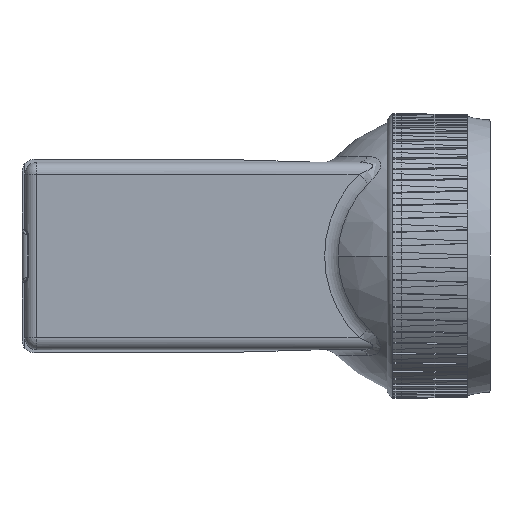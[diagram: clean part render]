
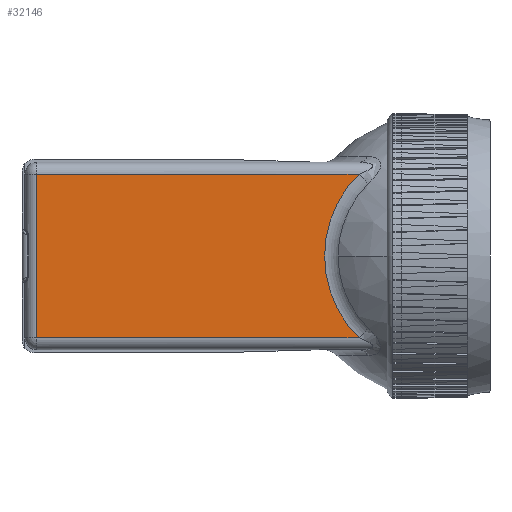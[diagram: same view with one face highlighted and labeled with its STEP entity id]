
A CAD part, front view. The second image highlights one B-rep face of the part: STEP entity #32146.
In plain terms, the highlighted planar face has unit normal (0, -1, 0).
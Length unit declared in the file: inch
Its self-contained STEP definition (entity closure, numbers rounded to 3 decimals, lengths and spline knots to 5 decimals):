
#1285 = CARTESIAN_POINT ( 'NONE',  ( 5.70515, -1.6, -1.4 ) ) ;
#3133 = VERTEX_POINT ( 'NONE', #34626 ) ;
#4519 = EDGE_LOOP ( 'NONE', ( #34957, #18372, #26862, #16624 ) ) ;
#5855 = CIRCLE ( 'NONE', #37379, 1.9622 ) ;
#5985 = CARTESIAN_POINT ( 'NONE',  ( 6.15, -1.6, -1.4 ) ) ;
#6199 = EDGE_CURVE ( 'NONE', #10807, #6694, #19349, .T. ) ;
#6331 = EDGE_CURVE ( 'NONE', #3133, #19429, #38477, .T. ) ;
#6694 = VERTEX_POINT ( 'NONE', #16736 ) ;
#9643 = LINE ( 'NONE', #15255, #18502 ) ;
#10807 = VERTEX_POINT ( 'NONE', #34066 ) ;
#11314 = DIRECTION ( 'NONE',  ( -1., 0., 0. ) ) ;
#11854 = DIRECTION ( 'NONE',  ( 0., 1., 0. ) ) ;
#15255 = CARTESIAN_POINT ( 'NONE',  ( 0.2, -1.6, -1.6 ) ) ;
#15750 = DIRECTION ( 'NONE',  ( 0., 0., 1. ) ) ;
#16624 = ORIENTED_EDGE ( 'NONE', *, *, #24875, .T. ) ;
#16736 = CARTESIAN_POINT ( 'NONE',  ( 0.2, -1.6, 1.4 ) ) ;
#17534 = FACE_OUTER_BOUND ( 'NONE', #4519, .T. ) ;
#18372 = ORIENTED_EDGE ( 'NONE', *, *, #27027, .T. ) ;
#18502 = VECTOR ( 'NONE', #21121, 39.37008 ) ;
#19349 = LINE ( 'NONE', #19888, #26299 ) ;
#19429 = VERTEX_POINT ( 'NONE', #1285 ) ;
#19888 = CARTESIAN_POINT ( 'NONE',  ( 6.15, -1.6, 1.4 ) ) ;
#20787 = DIRECTION ( 'NONE',  ( 1., 0., 0. ) ) ;
#21121 = DIRECTION ( 'NONE',  ( 0., 0., -1. ) ) ;
#24875 = EDGE_CURVE ( 'NONE', #6694, #3133, #9643, .T. ) ;
#26299 = VECTOR ( 'NONE', #11314, 39.37008 ) ;
#26862 = ORIENTED_EDGE ( 'NONE', *, *, #6199, .T. ) ;
#27027 = EDGE_CURVE ( 'NONE', #19429, #10807, #5855, .T. ) ;
#27584 = CARTESIAN_POINT ( 'NONE',  ( 6.15, -1.6, 1.6 ) ) ;
#29678 = CARTESIAN_POINT ( 'NONE',  ( 7.08, -1.6, 0. ) ) ;
#30605 = PLANE ( 'NONE',  #35387 ) ;
#32146 = ADVANCED_FACE ( 'NONE', ( #17534 ), #30605, .F. ) ;
#32701 = DIRECTION ( 'NONE',  ( 0., 0., 1. ) ) ;
#33604 = DIRECTION ( 'NONE',  ( 0., 1., 0. ) ) ;
#34066 = CARTESIAN_POINT ( 'NONE',  ( 5.70515, -1.6, 1.4 ) ) ;
#34626 = CARTESIAN_POINT ( 'NONE',  ( 0.2, -1.6, -1.4 ) ) ;
#34957 = ORIENTED_EDGE ( 'NONE', *, *, #6331, .T. ) ;
#35387 = AXIS2_PLACEMENT_3D ( 'NONE', #27584, #33604, #15750 ) ;
#37379 = AXIS2_PLACEMENT_3D ( 'NONE', #29678, #11854, #32701 ) ;
#37546 = VECTOR ( 'NONE', #20787, 39.37008 ) ;
#38477 = LINE ( 'NONE', #5985, #37546 ) ;
